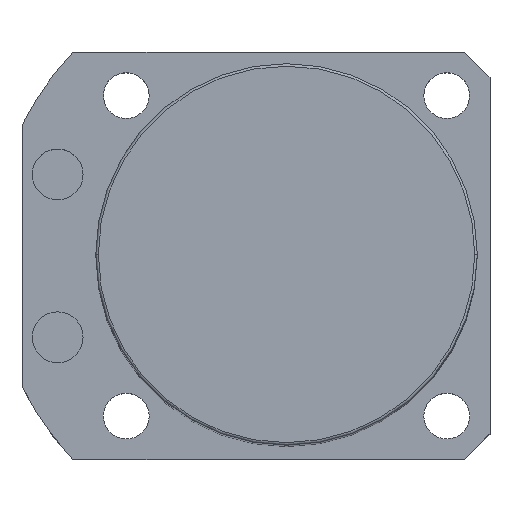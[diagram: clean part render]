
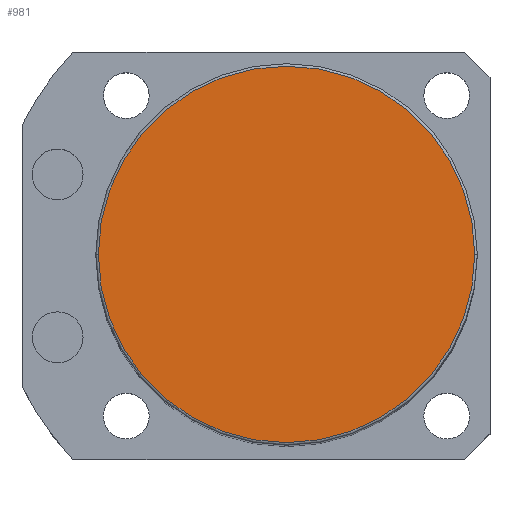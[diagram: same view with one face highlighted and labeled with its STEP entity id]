
A CAD part, top view. The second image highlights one B-rep face of the part: STEP entity #981.
In plain terms, the highlighted planar face has unit normal (0, 0, 1).
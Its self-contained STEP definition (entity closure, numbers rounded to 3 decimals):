
#67 = DIRECTION ( 'NONE',  ( 0., 0., 1. ) ) ;
#187 = ORIENTED_EDGE ( 'NONE', *, *, #976, .T. ) ;
#402 = EDGE_CURVE ( 'NONE', #1209, #2121, #1571, .T. ) ;
#622 = EDGE_LOOP ( 'NONE', ( #700, #187 ) ) ;
#700 = ORIENTED_EDGE ( 'NONE', *, *, #402, .T. ) ;
#781 = AXIS2_PLACEMENT_3D ( 'NONE', #1504, #67, #1476 ) ;
#843 = DIRECTION ( 'NONE',  ( 0., 0., 1. ) ) ;
#879 = DIRECTION ( 'NONE',  ( 0., 0., 1. ) ) ;
#976 = EDGE_CURVE ( 'NONE', #2121, #1209, #1306, .T. ) ;
#981 = ADVANCED_FACE ( 'NONE', ( #2215 ), #2297, .T. ) ;
#1075 = DIRECTION ( 'NONE',  ( 1., 0., 0. ) ) ;
#1209 = VERTEX_POINT ( 'NONE', #1962 ) ;
#1282 = CARTESIAN_POINT ( 'NONE',  ( -37., 0., 180.5 ) ) ;
#1306 = CIRCLE ( 'NONE', #2585, 37. ) ;
#1476 = DIRECTION ( 'NONE',  ( 1., 0., 0. ) ) ;
#1504 = CARTESIAN_POINT ( 'NONE',  ( 0., 0., 180.5 ) ) ;
#1571 = CIRCLE ( 'NONE', #2299, 37. ) ;
#1962 = CARTESIAN_POINT ( 'NONE',  ( 37., 0., 180.5 ) ) ;
#2084 = CARTESIAN_POINT ( 'NONE',  ( 0., 0., 180.5 ) ) ;
#2121 = VERTEX_POINT ( 'NONE', #1282 ) ;
#2215 = FACE_OUTER_BOUND ( 'NONE', #622, .T. ) ;
#2259 = DIRECTION ( 'NONE',  ( 1., 0., 0. ) ) ;
#2297 = PLANE ( 'NONE',  #781 ) ;
#2299 = AXIS2_PLACEMENT_3D ( 'NONE', #2454, #843, #2259 ) ;
#2454 = CARTESIAN_POINT ( 'NONE',  ( 0., 0., 180.5 ) ) ;
#2585 = AXIS2_PLACEMENT_3D ( 'NONE', #2084, #879, #1075 ) ;
